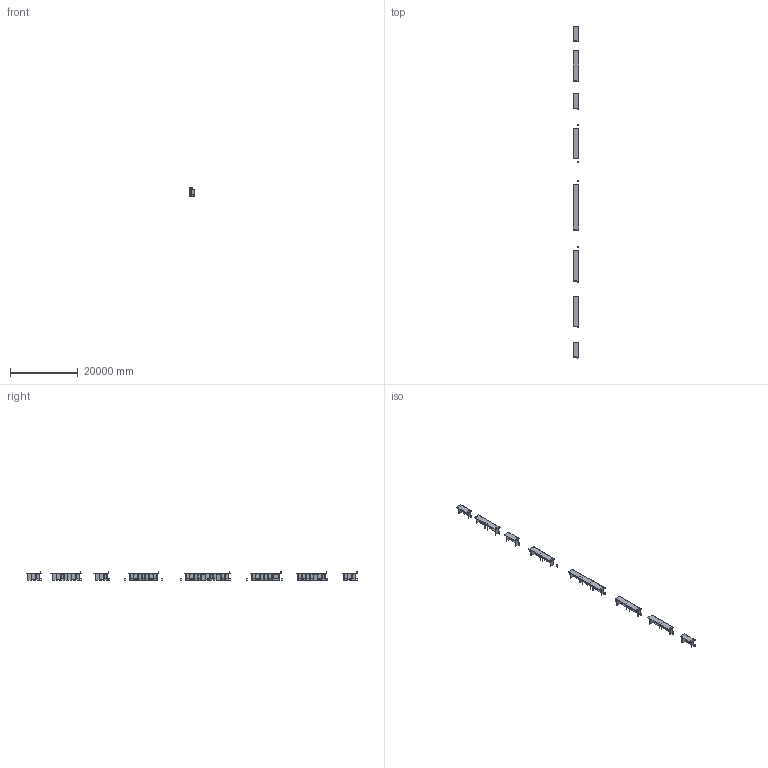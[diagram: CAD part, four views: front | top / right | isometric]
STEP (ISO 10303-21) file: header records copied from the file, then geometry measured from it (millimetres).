
FILE_DESCRIPTION(/* description */ (''),/* implementation_level */ '2;1');
FILE_NAME(/* name */ 'K1_P~IP4',/* time_stamp */ '2021-12-28T16:06:04+02:00',/* author */ (''),/* organization */ (''),/* preprocessor_version */ 'ST-DEVELOPER v16.5',/* originating_system */ '',/* authorisation */ '');
FILE_SCHEMA (('AUTOMOTIVE_DESIGN'));
Products named in the file (1): Document
Bounding box: 1770 x 98134.88 x 2913 mm (x, y, z)
Volume: 20622082162.1 mm3; surface area: 652669486.7 mm2
Topology: 660 solids, 671 shells, 4123 faces, 8376 edges, 5584 vertices
Faces by surface type: plane 4069, bspline 54
Entity records: 98294 total; most frequent: CARTESIAN_POINT 27324, ORIENTED_EDGE 16708, EDGE_CURVE 8376, B_SPLINE_CURVE_WITH_KNOTS 8257, VERTEX_POINT 5584, EDGE_LOOP 4153, ADVANCED_FACE 4123, FACE_OUTER_BOUND 4123
